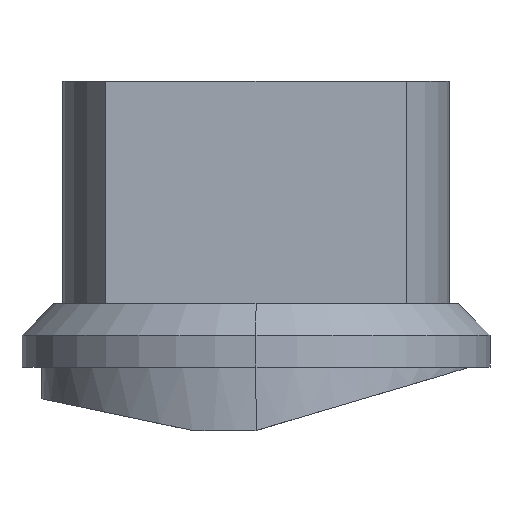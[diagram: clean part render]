
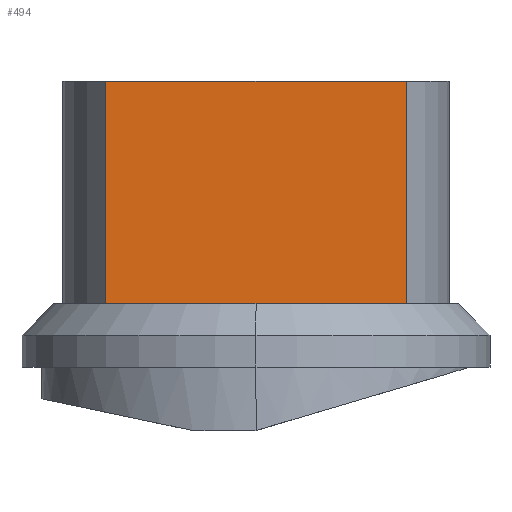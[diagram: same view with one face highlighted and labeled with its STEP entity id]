
A CAD part, left-side view. The second image highlights one B-rep face of the part: STEP entity #494.
In plain terms, the highlighted planar face has unit normal (-1, 0, 0).
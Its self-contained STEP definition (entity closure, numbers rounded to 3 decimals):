
#4 = CARTESIAN_POINT ( 'NONE',  ( -3.85, 4.732, 0. ) ) ;
#5 = CARTESIAN_POINT ( 'NONE',  ( -3.85, 4.732, 7. ) ) ;
#10 = DIRECTION ( 'NONE',  ( 0., 1., 0. ) ) ;
#24 = EDGE_LOOP ( 'NONE', ( #371, #56, #121, #196 ) ) ;
#31 = LINE ( 'NONE', #363, #515 ) ;
#48 = VERTEX_POINT ( 'NONE', #180 ) ;
#56 = ORIENTED_EDGE ( 'NONE', *, *, #540, .F. ) ;
#78 = LINE ( 'NONE', #255, #264 ) ;
#86 = LINE ( 'NONE', #199, #233 ) ;
#89 = DIRECTION ( 'NONE',  ( 0., 0., 1. ) ) ;
#110 = CARTESIAN_POINT ( 'NONE',  ( -3.85, 0., 7. ) ) ;
#121 = ORIENTED_EDGE ( 'NONE', *, *, #190, .T. ) ;
#138 = LINE ( 'NONE', #110, #169 ) ;
#152 = EDGE_CURVE ( 'NONE', #188, #601, #86, .T. ) ;
#169 = VECTOR ( 'NONE', #338, 1000. ) ;
#172 = DIRECTION ( 'NONE',  ( 0., 0., -1. ) ) ;
#177 = CARTESIAN_POINT ( 'NONE',  ( -3.85, 0., 7. ) ) ;
#180 = CARTESIAN_POINT ( 'NONE',  ( -3.85, -4.732, 7. ) ) ;
#188 = VERTEX_POINT ( 'NONE', #573 ) ;
#190 = EDGE_CURVE ( 'NONE', #48, #219, #138, .T. ) ;
#196 = ORIENTED_EDGE ( 'NONE', *, *, #321, .T. ) ;
#199 = CARTESIAN_POINT ( 'NONE',  ( -3.85, 0., 0. ) ) ;
#219 = VERTEX_POINT ( 'NONE', #5 ) ;
#233 = VECTOR ( 'NONE', #10, 1000. ) ;
#255 = CARTESIAN_POINT ( 'NONE',  ( -3.85, 4.732, 7. ) ) ;
#264 = VECTOR ( 'NONE', #579, 1000. ) ;
#279 = PLANE ( 'NONE',  #397 ) ;
#311 = FACE_OUTER_BOUND ( 'NONE', #24, .T. ) ;
#321 = EDGE_CURVE ( 'NONE', #219, #601, #78, .T. ) ;
#338 = DIRECTION ( 'NONE',  ( 0., 1., 0. ) ) ;
#363 = CARTESIAN_POINT ( 'NONE',  ( -3.85, -4.732, 7. ) ) ;
#367 = DIRECTION ( 'NONE',  ( -1., 0., 0. ) ) ;
#371 = ORIENTED_EDGE ( 'NONE', *, *, #152, .F. ) ;
#397 = AXIS2_PLACEMENT_3D ( 'NONE', #177, #367, #89 ) ;
#494 = ADVANCED_FACE ( 'NONE', ( #311 ), #279, .T. ) ;
#515 = VECTOR ( 'NONE', #172, 1000. ) ;
#540 = EDGE_CURVE ( 'NONE', #48, #188, #31, .T. ) ;
#573 = CARTESIAN_POINT ( 'NONE',  ( -3.85, -4.732, 0. ) ) ;
#579 = DIRECTION ( 'NONE',  ( 0., 0., -1. ) ) ;
#601 = VERTEX_POINT ( 'NONE', #4 ) ;
